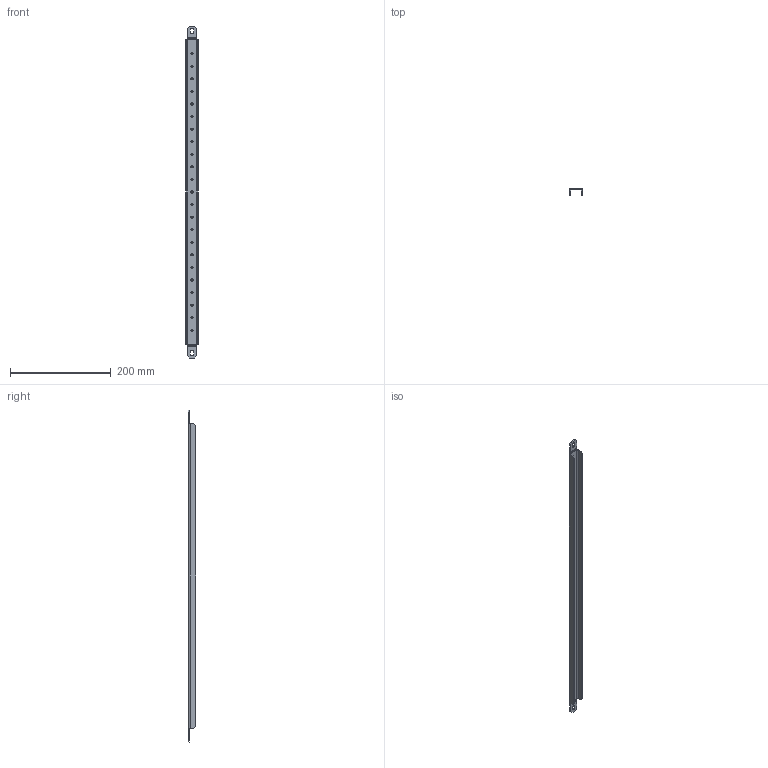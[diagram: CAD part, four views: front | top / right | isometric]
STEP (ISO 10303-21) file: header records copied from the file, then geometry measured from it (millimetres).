
FILE_DESCRIPTION (( 'STEP AP203' ), '1' );
FILE_NAME ('VB 80 G Ðåéêà äëÿ ãëóõîé äâåðè v1.STEP', '2022-08-10T15:42:27', ( '' ), ( '' ), 'SwSTEP 2.0', 'SolidWorks 2018', '' );
FILE_SCHEMA (( 'CONFIG_CONTROL_DESIGN' ));
Length unit declared in the file: millimetre
Products named in the file (1): VB 80 G Ðåéêà äëÿ ãëóõîé äâåðè v1
Bounding box: 25 x 14.5 x 660.31 mm (x, y, z)
Volume: 58896.1 mm3; surface area: 62413.6 mm2
Topology: 1 solids, 1 shells, 122 faces, 312 edges, 192 vertices
Faces by surface type: plane 66, cylinder 56
Entity records: 3841 total; most frequent: DIRECTION 670, CARTESIAN_POINT 627, ORIENTED_EDGE 624, EDGE_CURVE 312, AXIS2_PLACEMENT_3D 235, VECTOR 200, LINE 200, VERTEX_POINT 192
